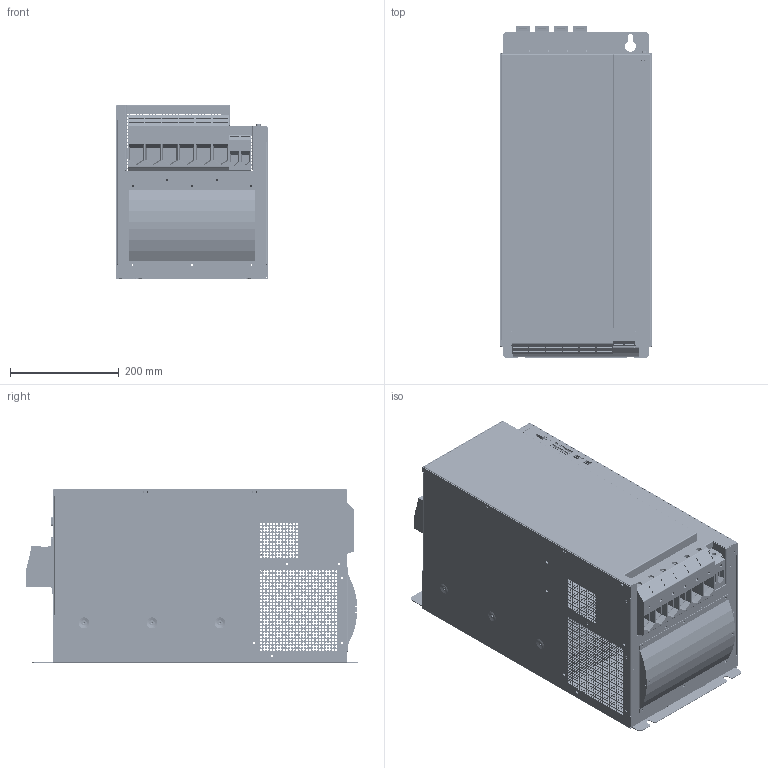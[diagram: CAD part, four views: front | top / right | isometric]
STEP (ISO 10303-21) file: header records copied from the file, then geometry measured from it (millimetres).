
FILE_DESCRIPTION (( 'STEP AP214' ), '1' );
FILE_NAME ('c-line BG7A Wandmontage.STEP', '2013-08-28T06:10:46', ( '' ), ( '' ), 'SwSTEP 2.0', 'SolidWorks 2012', '' );
FILE_SCHEMA (( 'AUTOMOTIVE_DESIGN' ));
Products named in the file (28): 062-03944 HOCHSTROMKLEMME UKH50; 062-04411 HOCHSTROMKLEMME UKH 150; 062-04413 PE-KLEMME UKH 150 GNGE; 062-04413 PE-KLEMME UKH 150 GNGE Teil 1; 062-04413 PE-KLEMME UKH 150 GNGE Teil 2; 183_-01646-; Servo one BG6_BG6A NT-klemmen; Stecker 2pol; 183_-01554A; Rivet 03_DIN_DIN 661-4x6-St-A-3; 183_-01576-; 183_-01575-; Steuerprint CDE; 062-03948 HOCHSTR.-DURCHF. HDFK 95-F-VP Teil 1; 062-04157 HOCHSTR.-DURCHF. HDFK 95 PE; 062-04157 HOCHSTR.-DURCHF. HDFK 95 PE Teil 1; 062-04157 HOCHSTR.-DURCHF. HDFK 95 PE Teil 2; 183_-01802-; 183_-01772-; 183_-01624-; 183_-01771-; 183_-01404F; 183_-01580-; Kühlrippe 354mm; U_Blech 357; Alustift 4x354; c-line BG7A Wandmontage
Assembly tree (64 placements, depth 4):
  c-line BG7A Wandmontage
    183_-01580-
      183_-01580-
      Kühlrippe 354mm  x23
        Alustift 4x354
        U_Blech 357
    183_-01404F
    183_-01772-
      183_-01771-
      183_-01624-
    183_-01802-
    062-04157 HOCHSTR.-DURCHF. HDFK 95 PE
      062-04157 HOCHSTR.-DURCHF. HDFK 95 PE Teil 2
      062-04157 HOCHSTR.-DURCHF. HDFK 95 PE Teil 1
    062-03948 HOCHSTR.-DURCHF. HDFK 95-F-VP Teil 1  x3
    Steuerprint CDE
    183_-01554A
      183_-01575-
      183_-01576-
      Rivet 03_DIN_DIN 661-4x6-St-A-3  x8
    Servo one BG6_BG6A NT-klemmen
      Stecker 2pol  x2
    183_-01646-
    062-04413 PE-KLEMME UKH 150 GNGE
      062-04413 PE-KLEMME UKH 150 GNGE Teil 2
      062-04413 PE-KLEMME UKH 150 GNGE Teil 1
    062-04411 HOCHSTROMKLEMME UKH 150  x5
    062-03944 HOCHSTROMKLEMME UKH50  x2
Bounding box: 280 x 610 x 321 mm (x, y, z)
Volume: 6422527.9 mm3; surface area: 5122047.3 mm2
Topology: 79 solids, 79 shells, 9016 faces, 25197 edges, 16507 vertices
Faces by surface type: bspline 4059, plane 3435, cylinder 1239, cone 264, torus 16, sphere 3
Entity records: 284424 total; most frequent: CARTESIAN_POINT 102013, ORIENTED_EDGE 43666, DIRECTION 23013, EDGE_CURVE 21833, VERTEX_POINT 14372, EDGE_LOOP 12313, LINE 11513, VECTOR 11513
